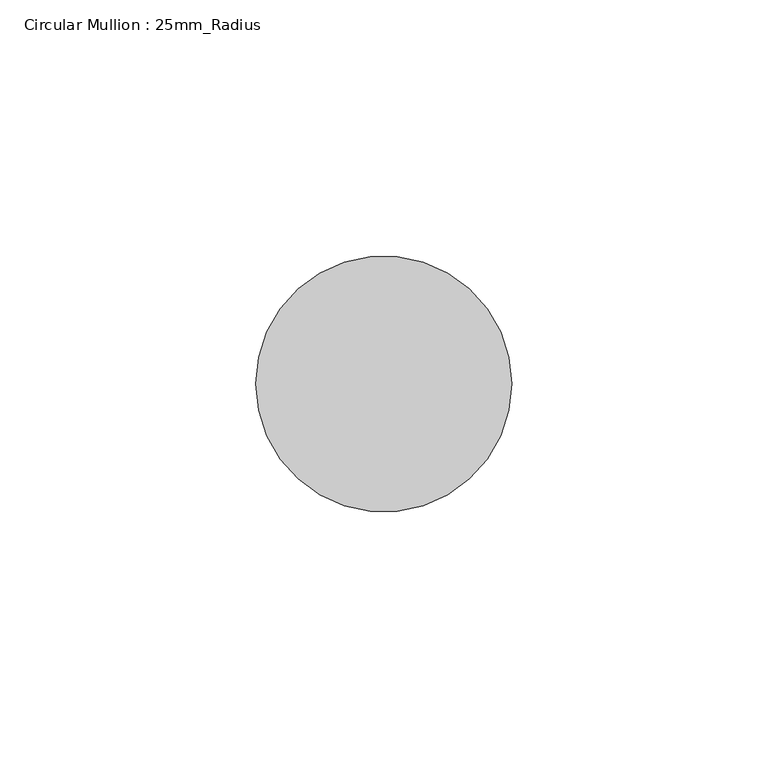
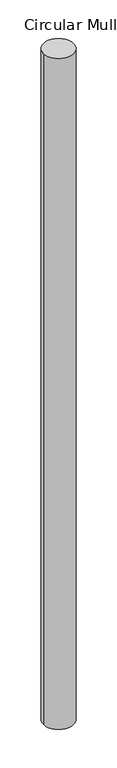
"""IFC4 building model written with IfcOpenShell, lengths in millimetres: member geometry, Circular Mullion : 25mm_Radius."""

import ifcopenshell
import ifcopenshell.guid

model = None  # the IFC model being written
_history = None  # IfcOwnerHistory: only IFC2X3 demands one
_inside = {}  # id of a spatial element -> (the spatial element, [elements in it])
_under = {}  # id of a project, library or spatial element -> (it, [spatial elements below it])
_declared = {}  # id of a project -> (the project, [libraries it declares])
_typed = {}  # id of a type object -> (the type object, [elements of that type])
_made_of = {}  # id of a material, layer set ... -> (it, [elements and type objects made of it])


def new_model(schema):
    """Start an empty IFC model of exactly this schema.

    Asked for "IFC4X3", IfcOpenShell would pick the latest addendum, in which some entities
    have other attributes; the version numbers below select the first issue.
    IFC2X3 requires an IfcOwnerHistory on every rooted entity: one is made here for all.
    """
    global model, _history
    if schema == "IFC4X3":
        model = ifcopenshell.file(schema_version=(4, 3, 0, 0))
    else:
        model = ifcopenshell.file(schema=schema)
    _inside.clear()
    _under.clear()
    _declared.clear()
    _typed.clear()
    _made_of.clear()
    _history = None
    if model.schema == "IFC2X3":
        org = make("IfcOrganization", Name="unknown")
        user = make(
            "IfcPersonAndOrganization",
            ThePerson=make("IfcPerson", FamilyName="unknown"),
            TheOrganization=org,
        )
        app = make(
            "IfcApplication",
            ApplicationDeveloper=org,
            Version="unknown",
            ApplicationFullName="unknown",
            ApplicationIdentifier="unknown",
        )
        _history = make(
            "IfcOwnerHistory",
            OwningUser=user,
            OwningApplication=app,
            ChangeAction="ADDED",
            CreationDate=0,
        )
    return model


def make(cls, **values):
    """One entity of the class cls with the attributes given. An attribute that is None is left unset."""
    return model.create_entity(
        cls, **{name: value for name, value in values.items() if value is not None}
    )


def rooted(cls, **values):
    """An entity with a GlobalId (a new one), such as an element, a storey or a relation."""
    return make(cls, GlobalId=ifcopenshell.guid.new(), OwnerHistory=_history, **values)


def si_unit(unit_type, name, prefix=None):
    """IfcSIUnit, for example si_unit("LENGTHUNIT", "METRE", prefix="MILLI")."""
    return make("IfcSIUnit", UnitType=unit_type, Prefix=prefix, Name=name)


def assignment(units):
    """IfcUnitAssignment: the units of a project."""
    return None if units is None else make("IfcUnitAssignment", Units=units)


def point(xyz):
    """IfcCartesianPoint."""
    return None if xyz is None else make("IfcCartesianPoint", Coordinates=xyz)


def direction(xyz):
    """IfcDirection."""
    return None if xyz is None else make("IfcDirection", DirectionRatios=xyz)


def frame(location, z_axis=None, x_axis=None):
    """IfcAxis2Placement3D, a coordinate frame: its origin and axes. An axis left out is left unset."""
    return make(
        "IfcAxis2Placement3D",
        Location=point(location),
        Axis=direction(z_axis),
        RefDirection=direction(x_axis),
    )


def frame_2d(location, x_axis=None):
    """IfcAxis2Placement2D, a coordinate frame in the plane: its origin and x axis."""
    return make(
        "IfcAxis2Placement2D", Location=point(location), RefDirection=direction(x_axis)
    )


def origin():
    """The frame at (0, 0, 0) with its axes left unset."""
    return frame((0.0, 0.0, 0.0))


def place(relative_to, where):
    """IfcLocalPlacement: puts the frame where relative to a parent placement (None: the world)."""
    return make(
        "IfcLocalPlacement", PlacementRelTo=relative_to, RelativePlacement=where
    )


def context(
    kind, dimensions, precision=None, world=None, true_north=None, identifier=None
):
    """IfcGeometricRepresentationContext, for example the 3D "Model" context."""
    return make(
        "IfcGeometricRepresentationContext",
        ContextIdentifier=identifier,
        ContextType=kind,
        CoordinateSpaceDimension=dimensions,
        Precision=precision,
        WorldCoordinateSystem=world,
        TrueNorth=true_north,
    )


def project(units=None, contexts=None):
    """IfcProject with its units and contexts."""
    return rooted(
        "IfcProject",
        Name="project",
        RepresentationContexts=contexts,
        UnitsInContext=assignment(units),
    )


def spatial(cls, under=None, at=None, **own):
    """A site, building, storey or space (cls), placed at a placement, below another one or the project."""
    s = rooted(cls, ObjectPlacement=at, **own)
    if under is not None:
        _under.setdefault(under.id(), (under, []))[1].append(s)
    return s


def circle_curve(where, radius):
    """IfcCircle in the frame where."""
    return make("IfcCircle", Position=where, Radius=radius)


def trimmed(basis, trim1, trim2, sense, master):
    """IfcTrimmedCurve: the piece of a basis curve between two trims."""
    return make(
        "IfcTrimmedCurve",
        BasisCurve=basis,
        Trim1=trim1,
        Trim2=trim2,
        SenseAgreement=sense,
        MasterRepresentation=master,
    )


def segment(curve, same_sense, transition):
    """IfcCompositeCurveSegment."""
    return make(
        "IfcCompositeCurveSegment",
        Transition=transition,
        SameSense=same_sense,
        ParentCurve=curve,
    )


def composite_curve(segments, self_intersect=None):
    """IfcCompositeCurve: segments joined end to end."""
    return make("IfcCompositeCurve", Segments=segments, SelfIntersect=self_intersect)


def outline(outer, holes=None, kind="AREA"):
    """IfcArbitraryClosedProfileDef: a profile drawn as a closed curve; with holes, ...WithVoids."""
    if holes is None:
        return make("IfcArbitraryClosedProfileDef", ProfileType=kind, OuterCurve=outer)
    return make(
        "IfcArbitraryProfileDefWithVoids",
        ProfileType=kind,
        OuterCurve=outer,
        InnerCurves=holes,
    )


def extrude(swept, where, along, depth):
    """IfcExtrudedAreaSolid: the profile swept, set in the frame where, extruded along a direction by depth."""
    return make(
        "IfcExtrudedAreaSolid",
        SweptArea=swept,
        Position=where,
        ExtrudedDirection=direction(along),
        Depth=depth,
    )


def shape(context_of_items, identifier, shape_type, items):
    """IfcShapeRepresentation: the items that make up one representation, for example the "Body"."""
    return make(
        "IfcShapeRepresentation",
        ContextOfItems=context_of_items,
        RepresentationIdentifier=identifier,
        RepresentationType=shape_type,
        Items=items,
    )


def source(mapping_origin, context_of_items, identifier, shape_type, items):
    """IfcRepresentationMap: a shape defined once, which mapped items show again and again."""
    return make(
        "IfcRepresentationMap",
        MappingOrigin=mapping_origin,
        MappedRepresentation=shape(context_of_items, identifier, shape_type, items),
    )


def transform(
    local_origin,
    x_axis=None,
    y_axis=None,
    z_axis=None,
    scale=None,
    scale2=None,
    scale3=None,
    uniform=True,
):
    """IfcCartesianTransformationOperator3D, or its non-uniform kind. x_axis, y_axis, z_axis: its Axis1, 2, 3."""
    if uniform:
        return make(
            "IfcCartesianTransformationOperator3D",
            Axis1=direction(x_axis),
            Axis2=direction(y_axis),
            LocalOrigin=point(local_origin),
            Scale=scale,
            Axis3=direction(z_axis),
        )
    return make(
        "IfcCartesianTransformationOperator3DnonUniform",
        Axis1=direction(x_axis),
        Axis2=direction(y_axis),
        LocalOrigin=point(local_origin),
        Scale=scale,
        Axis3=direction(z_axis),
        Scale2=scale2,
        Scale3=scale3,
    )


def mapped(mapping_source, mapping_target):
    """IfcMappedItem: shows the shape of a source again, moved by a transform."""
    return make(
        "IfcMappedItem", MappingSource=mapping_source, MappingTarget=mapping_target
    )


def made_of(thing, what):
    """Note that an element or type object is made of a material, layer set ...; save() writes the relation."""
    if what is not None:
        _made_of.setdefault(what.id(), (what, []))[1].append(thing)
    return thing


def element(
    cls,
    number,
    at=None,
    inside=None,
    cuts=None,
    type_object=None,
    material=None,
    context=None,
    identifier="Body",
    shape_type=None,
    held_by="IfcProductDefinitionShape",
    body=None,
    shapes=None,
    **own,
):
    """One element of the class cls, such as IfcWall. Its Tag is "e" and its number.

    at: its placement. inside: the storey or other place that contains it. cuts: it is an
    opening in that element (IfcRelVoidsElement). A single representation is given by context,
    identifier, shape_type and body (its items); several are given by shapes. held_by: the class
    of the entity that holds the representations. save() writes the other relations.
    """
    e = rooted(cls, Tag="e%d" % number, ObjectPlacement=at, **own)
    if body is not None:
        shapes = [shape(context, identifier, shape_type, body)]
    if shapes is not None:
        e.Representation = make(held_by, Representations=shapes)
    if inside is not None:
        _inside.setdefault(inside.id(), (inside, []))[1].append(e)
    if cuts is not None:
        rooted(
            "IfcRelVoidsElement", RelatingBuildingElement=cuts, RelatedOpeningElement=e
        )
    if type_object is not None:
        _typed.setdefault(type_object.id(), (type_object, []))[1].append(e)
    return made_of(e, material)


def aggregate(whole, parts):
    """IfcRelAggregates: a whole, such as a stair, and the parts it consists of."""
    return rooted("IfcRelAggregates", RelatingObject=whole, RelatedObjects=parts)


def save(model, path):
    """Write the relations noted so far, then the file.

    IfcRelAggregates (storeys below a building ...), IfcRelContainedInSpatialStructure (elements
    in a storey), IfcRelDefinesByType, IfcRelAssociatesMaterial and IfcRelDeclares: one each for
    every whole, place, type object, material and project.
    """
    for whole, parts in _under.values():
        aggregate(whole, parts)
    for where, things in _inside.values():
        rooted(
            "IfcRelContainedInSpatialStructure",
            RelatedElements=things,
            RelatingStructure=where,
        )
    for kind, things in _typed.values():
        rooted("IfcRelDefinesByType", RelatedObjects=things, RelatingType=kind)
    for what, things in _made_of.values():
        rooted("IfcRelAssociatesMaterial", RelatedObjects=things, RelatingMaterial=what)
    for by, libraries in _declared.values():
        rooted("IfcRelDeclares", RelatingContext=by, RelatedDefinitions=libraries)
    model.write(path)


def circular_mullion_25mm_radius_ed7b654d(model_context):
    return source(origin(), model_context, "Body", "SweptSolid", [
        extrude(outline(composite_curve([segment(trimmed(circle_curve(frame_2d((-25.0, 0.0)), 25.0), [point((0.0, 0.0))], [point((-50.0, 0.0))], False, "CARTESIAN"), True, "CONTINUOUS"), segment(trimmed(circle_curve(frame_2d((-25.0, 0.0)), 25.0), [point((-50.0, 0.0))], [point((0.0, 0.0))], False, "CARTESIAN"), True, "CONTINUOUS")], self_intersect=False)), frame((0.0, 0.0, -1176.2050127), z_axis=(0.0, 0.0, 1.0), x_axis=(1.0, 0.0, 0.0)), (0.0, 0.0, 1.0), 1176.2050127),
    ])


if __name__ == "__main__":
    model = new_model("IFC4")
    model_context = context("Model", 3, world=origin())
    ifc_project = project(units=[si_unit("LENGTHUNIT", "METRE", prefix="MILLI")], contexts=[model_context])
    site = spatial("IfcSite", under=ifc_project)
    building = spatial("IfcBuilding", under=site)
    placement = place(None, origin())
    circular_mullion_25mm_radius_shape = circular_mullion_25mm_radius_ed7b654d(model_context)
    element("IfcMember", 1, ObjectType="Circular Mullion : 25mm_Radius", at=placement, inside=building, context=model_context, shape_type="MappedRepresentation", body=[
        mapped(circular_mullion_25mm_radius_shape, transform((0.0, 0.0, 0.0), x_axis=(1.0, 0.0, 0.0), y_axis=(0.0, 1.0, 0.0), z_axis=(0.0, 0.0, 1.0))),
    ])
    save(model, "model.ifc")
